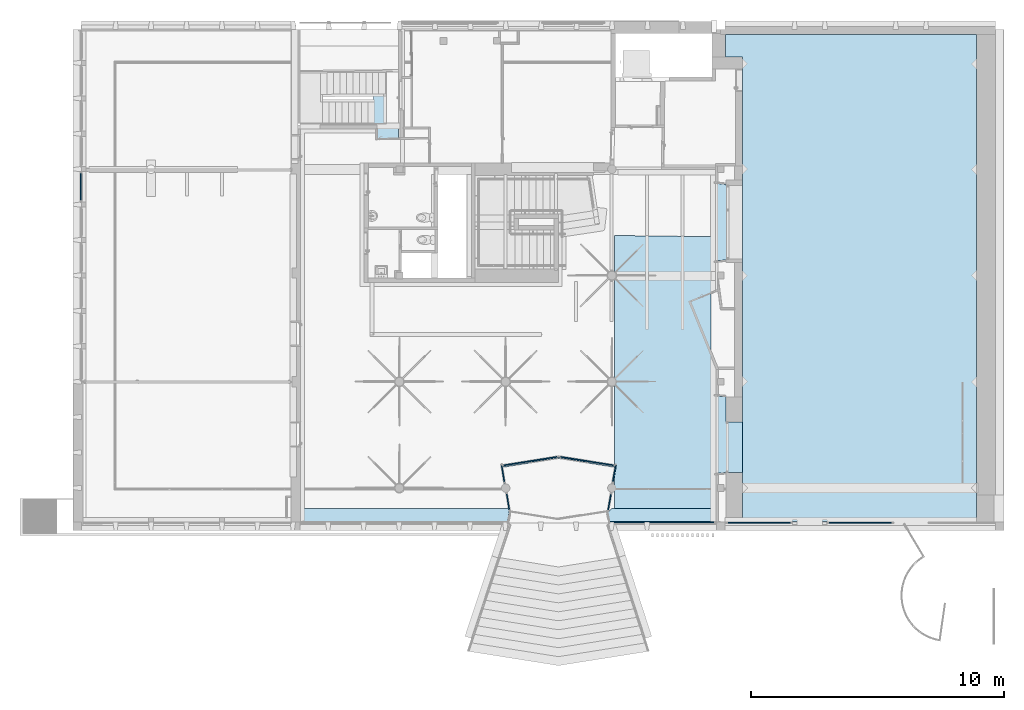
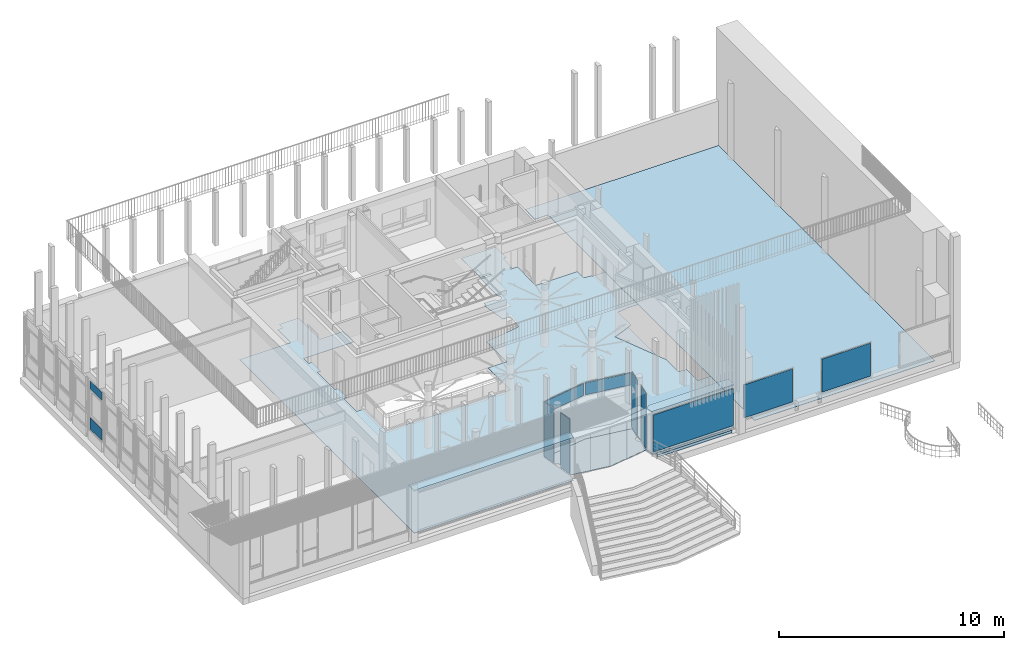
# One storey, part 16 of 65: 11 plates, 5 slabs, 10 elements without a shape of their own.
"""IFC4 building model written with IfcOpenShell, lengths in metres."""

from ifc_helpers import new_model, entity, si_unit, converted_unit, derived_unit, direction, frame, origin, place, context, subcontext, project, spatial, indexed_curve, outline, extrude, shape, source, transform, mapped, material, layer, layer_set, type_object, type_shapes, element, aggregate, save


model = new_model("IFC4")

# Units and contexts
model_context = context("Model", 3, precision=1e-05, world=origin(), true_north=direction((6.12303176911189e-17, 1.0)))
body_context = subcontext(model_context, "Body", "Model", "MODEL_VIEW")
footprint_context = subcontext(model_context, "FootPrint", "Model", "MODEL_VIEW")
ifc_project = project(units=[si_unit("LENGTHUNIT", "METRE"), si_unit("AREAUNIT", "SQUARE_METRE"), si_unit("VOLUMEUNIT", "CUBIC_METRE"), converted_unit("PLANEANGLEUNIT", "DEGREE", entity("IfcRatioMeasure", 0.0174532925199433), si_unit("PLANEANGLEUNIT", "RADIAN"), dimensions=[0, 0, 0, 0, 0, 0, 0]), si_unit("MASSUNIT", "GRAM", prefix="KILO"), derived_unit("MASSDENSITYUNIT", [(si_unit("MASSUNIT", "GRAM", prefix="KILO"), 1), (si_unit("LENGTHUNIT", "METRE"), -3)]), derived_unit("MOMENTOFINERTIAUNIT", [(si_unit("LENGTHUNIT", "METRE"), 4)]), si_unit("TIMEUNIT", "SECOND"), si_unit("FREQUENCYUNIT", "HERTZ"), si_unit("THERMODYNAMICTEMPERATUREUNIT", "DEGREE_CELSIUS"), derived_unit("THERMALTRANSMITTANCEUNIT", [(si_unit("MASSUNIT", "GRAM", prefix="KILO"), 1), (si_unit("THERMODYNAMICTEMPERATUREUNIT", "KELVIN"), -1), (si_unit("TIMEUNIT", "SECOND"), -3)]), derived_unit("VOLUMETRICFLOWRATEUNIT", [(si_unit("LENGTHUNIT", "METRE"), 3), (si_unit("TIMEUNIT", "SECOND"), -1)]), si_unit("ELECTRICCURRENTUNIT", "AMPERE"), si_unit("ELECTRICVOLTAGEUNIT", "VOLT"), si_unit("POWERUNIT", "WATT"), si_unit("FORCEUNIT", "NEWTON", prefix="KILO"), si_unit("ILLUMINANCEUNIT", "LUX"), si_unit("LUMINOUSFLUXUNIT", "LUMEN"), si_unit("LUMINOUSINTENSITYUNIT", "CANDELA"), derived_unit("USERDEFINED", [(si_unit("MASSUNIT", "GRAM", prefix="KILO"), -1), (si_unit("LENGTHUNIT", "METRE"), -2), (si_unit("TIMEUNIT", "SECOND"), 3), (si_unit("LUMINOUSFLUXUNIT", "LUMEN"), 1)]), derived_unit("LINEARVELOCITYUNIT", [(si_unit("LENGTHUNIT", "METRE"), 1), (si_unit("TIMEUNIT", "SECOND"), -1)]), si_unit("PRESSUREUNIT", "PASCAL"), derived_unit("USERDEFINED", [(si_unit("LENGTHUNIT", "METRE"), -2), (si_unit("MASSUNIT", "GRAM", prefix="KILO"), 1), (si_unit("TIMEUNIT", "SECOND"), -2)]), derived_unit("LINEARFORCEUNIT", [(si_unit("MASSUNIT", "GRAM", prefix="KILO"), 1), (si_unit("LENGTHUNIT", "METRE"), 1), (si_unit("TIMEUNIT", "SECOND"), -2), (si_unit("LENGTHUNIT", "METRE"), -1)]), derived_unit("PLANARFORCEUNIT", [(si_unit("MASSUNIT", "GRAM", prefix="KILO"), 1), (si_unit("LENGTHUNIT", "METRE"), 1), (si_unit("TIMEUNIT", "SECOND"), -2), (si_unit("LENGTHUNIT", "METRE"), -2)])], contexts=[model_context])

# Site, building, storey
site_placement = place(None, origin())
site = spatial("IfcSite", under=ifc_project, at=site_placement, Name="Default", CompositionType="ELEMENT")
building_placement = place(site_placement, origin())
building = spatial("IfcBuilding", under=site, at=building_placement, Name="HOTEL CONSULAIRE BOULOGNE SUR MER", CompositionType="ELEMENT")
storey_placement = place(building_placement, origin())
storey = spatial("IfcBuildingStorey", under=building, at=storey_placement, Name="Niveau 0", CompositionType="ELEMENT", Elevation=1.31981936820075e-13)

# Curtain wall, plate
curtain_wall_type = type_object("IfcCurtainWallType", Name="Mur-rideau:Simple panneau", PredefinedType="NOTDEFINED")
curtain_wall_1_placement = place(storey_placement, origin())
curtain_wall_1 = element("IfcCurtainWall", 1, at=curtain_wall_1_placement, inside=storey, type_object=curtain_wall_type, Name="Mur-rideau:Simple panneau", ObjectType="Mur-rideau:Simple panneau", PredefinedType="NOTDEFINED")
ifc_material_1 = material(Name="Verre", Category="Verre")
ifc_layer_1 = layer(ifc_material_1, 0.04, Name="Verre", Category="Verre")
ifc_layer_set_1 = layer_set([ifc_layer_1], Name="Mur-rideau:Simple panneau")
plate_type_1 = type_object("IfcPlateType", Name="Panneau système:Vitré", PredefinedType="CURTAIN_PANEL", material=ifc_layer_set_1)
shared_shape_1 = source(origin(), body_context, "Body", "SweptSolid", [
    extrude(outline(indexed_curve([(-0.02, -0.3156276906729), (0.02, -0.3156276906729), (0.02, 0.315627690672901), (-0.02, 0.315627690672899), (-0.02, -0.3156276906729)], self_intersect=False)), frame((0.315627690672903, 0.02, 0.0), z_axis=(0.0, 0.0, 1.0), x_axis=(0.0, 1.0, 0.0)), (0.0, 0.0, 1.0), 2.96461878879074),
])
shared_shape_2 = source(frame((-0.315627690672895, 0.00499999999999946, 0.0)), footprint_context, "FootPrint", "Curve2D", [
    entity("IfcIndexedPolyCurve", entity("IfcCartesianPointList2D", [[0.411831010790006, 0.00347599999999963], [0.411831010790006, 0.0434759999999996], [-0.219424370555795, 0.0434759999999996], [-0.219424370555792, 0.00347599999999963], [0.411831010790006, 0.00347599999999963]]), None, False),
])
type_shapes(plate_type_1, [shared_shape_1, shared_shape_2])
plate_1_placement = place(curtain_wall_1_placement, frame((3.1358729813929, -29.0647081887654, 0.0499999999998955), z_axis=(0.0, 0.0, 1.0), x_axis=(-0.164100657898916, 0.98644359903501, 0.0)))
plate_1 = element("IfcPlate", 2, at=plate_1_placement, type_object=plate_type_1, material=ifc_layer_set_1, Name="Panneau système:Vitré", ObjectType="Panneau système:Vitré", PredefinedType="CURTAIN_PANEL", shapes=[
    shape(body_context, "Body", "MappedRepresentation", [mapped(shared_shape_1, transform((0.0, 0.0, 0.0), scale=1.0))]),
    shape(body_context, "Body", "MappedRepresentation", [mapped(shared_shape_2, transform((0.0, 0.0, 0.0), scale=1.0))]),
])
aggregate(curtain_wall_1, [plate_1])

curtain_wall_2_placement = place(storey_placement, origin())
curtain_wall_2 = element("IfcCurtainWall", 3, at=curtain_wall_2_placement, inside=storey, type_object=curtain_wall_type, Name="Mur-rideau:Simple panneau", ObjectType="Mur-rideau:Simple panneau", PredefinedType="NOTDEFINED")
plate_type_2 = type_object("IfcPlateType", Name="Panneau système:Vitré", PredefinedType="CURTAIN_PANEL", material=ifc_layer_set_1)
shared_shape_3 = source(origin(), body_context, "Body", "SweptSolid", [
    extrude(outline(indexed_curve([(-0.02, -2.05573076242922), (0.02, -2.05573076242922), (0.02, 2.05573076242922), (-0.02, 2.05573076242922), (-0.02, -2.05573076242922)], self_intersect=False)), frame((2.05573076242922, 0.02, 0.0), z_axis=(0.0, 0.0, 1.0), x_axis=(0.0, 1.0, 0.0)), (0.0, 0.0, 1.0), 2.01),
])
shared_shape_4 = source(frame((-2.05573076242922, 0.00500000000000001, 0.0)), footprint_context, "FootPrint", "Curve2D", [
    entity("IfcIndexedPolyCurve", entity("IfcCartesianPointList2D", [[2.68231749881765, 0.003476], [2.68231749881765, 0.043476], [-1.42914402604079, 0.043476], [-1.42914402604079, 0.003476], [2.68231749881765, 0.003476]]), None, False),
])
type_shapes(plate_type_2, [shared_shape_3, shared_shape_4])
plate_2_placement = place(curtain_wall_2_placement, frame((7.09517677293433, -29.5930671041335, 0.139999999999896)))
plate_2 = element("IfcPlate", 4, at=plate_2_placement, type_object=plate_type_2, material=ifc_layer_set_1, Name="Panneau système:Vitré", ObjectType="Panneau système:Vitré", PredefinedType="CURTAIN_PANEL", shapes=[
    shape(body_context, "Body", "MappedRepresentation", [mapped(shared_shape_3, transform((0.0, 0.0, 0.0), scale=1.0))]),
    shape(body_context, "Body", "MappedRepresentation", [mapped(shared_shape_4, transform((0.0, 0.0, 0.0), scale=1.0))]),
])
aggregate(curtain_wall_2, [plate_2])

curtain_wall_3_placement = place(storey_placement, origin())
curtain_wall_3 = element("IfcCurtainWall", 5, at=curtain_wall_3_placement, inside=storey, type_object=curtain_wall_type, Name="Mur-rideau:Simple panneau", ObjectType="Mur-rideau:Simple panneau", PredefinedType="NOTDEFINED")
plate_type_3 = type_object("IfcPlateType", Name="Panneau système:Vitré", PredefinedType="CURTAIN_PANEL", material=ifc_layer_set_1)
shared_shape_5 = source(origin(), body_context, "Body", "SweptSolid", [
    extrude(outline(indexed_curve([(-0.0199999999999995, -0.326000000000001), (0.0200000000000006, -0.326000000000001), (0.0199999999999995, 0.326000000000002), (-0.0200000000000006, 0.326), (-0.0199999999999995, -0.326000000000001)], self_intersect=False)), frame((0.326000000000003, 0.02, 0.0), z_axis=(0.0, 0.0, 1.0), x_axis=(0.0, 1.0, 0.0)), (0.0, 0.0, 1.0), 2.96461878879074),
])
shared_shape_6 = source(frame((-0.326000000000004, -0.045, 0.0)), footprint_context, "FootPrint", "Curve2D", [
    entity("IfcIndexedPolyCurve", entity("IfcCartesianPointList2D", [[0.425364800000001, -0.031284], [0.425364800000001, 0.008716], [-0.226635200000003, 0.00871600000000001], [-0.226635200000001, -0.031284], [0.425364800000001, -0.031284]]), None, False),
])
type_shapes(plate_type_3, [shared_shape_5, shared_shape_6])
plate_3_placement = place(curtain_wall_3_placement, frame((7.04048388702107, -29.0984529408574, 0.0499999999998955), z_axis=(0.0, 0.0, 1.0), x_axis=(0.173648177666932, 0.984807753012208, 0.0)))
plate_3 = element("IfcPlate", 6, at=plate_3_placement, type_object=plate_type_3, material=ifc_layer_set_1, Name="Panneau système:Vitré", ObjectType="Panneau système:Vitré", PredefinedType="CURTAIN_PANEL", shapes=[
    shape(body_context, "Body", "MappedRepresentation", [mapped(shared_shape_5, transform((0.0, 0.0, 0.0), scale=1.0))]),
    shape(body_context, "Body", "MappedRepresentation", [mapped(shared_shape_6, transform((0.0, 0.0, 0.0), scale=1.0))]),
])
aggregate(curtain_wall_3, [plate_3])

curtain_wall_4_placement = place(storey_placement, origin())
curtain_wall_4 = element("IfcCurtainWall", 7, at=curtain_wall_4_placement, inside=storey, type_object=curtain_wall_type, Name="Mur-rideau:Simple panneau", ObjectType="Mur-rideau:Simple panneau", PredefinedType="NOTDEFINED")
plate_type_4 = type_object("IfcPlateType", Name="Panneau système:Vitré", PredefinedType="CURTAIN_PANEL", material=ifc_layer_set_1)
shared_shape_7 = source(origin(), body_context, "Body", "SweptSolid", [
    extrude(outline(indexed_curve([(-0.02, -0.336937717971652), (0.02, -0.336937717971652), (0.02, 0.336937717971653), (-0.02, 0.33693771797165), (-0.02, -0.336937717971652)], self_intersect=False)), frame((0.336937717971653, 0.02, 0.0), z_axis=(0.0, 0.0, 1.0), x_axis=(0.0, 1.0, 0.0)), (0.0, 0.0, 1.0), 2.96461878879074),
])
shared_shape_8 = source(frame((-0.33693771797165, 0.00500000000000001, 0.0)), footprint_context, "FootPrint", "Curve2D", [
    entity("IfcIndexedPolyCurve", entity("IfcCartesianPointList2D", [[0.439636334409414, 0.003476], [0.439636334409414, 0.043476], [-0.234239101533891, 0.043476], [-0.234239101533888, 0.003476], [0.439636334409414, 0.003476]]), None, False),
])
type_shapes(plate_type_4, [shared_shape_7, shared_shape_8])
plate_4_placement = place(curtain_wall_4_placement, frame((2.94031764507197, -27.9717966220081, 0.0499999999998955), z_axis=(0.0, 0.0, 1.0), x_axis=(-0.161062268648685, 0.986944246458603, 0.0)))
plate_4 = element("IfcPlate", 8, at=plate_4_placement, type_object=plate_type_4, material=ifc_layer_set_1, Name="Panneau système:Vitré", ObjectType="Panneau système:Vitré", PredefinedType="CURTAIN_PANEL", shapes=[
    shape(body_context, "Body", "MappedRepresentation", [mapped(shared_shape_7, transform((0.0, 0.0, 0.0), scale=1.0))]),
    shape(body_context, "Body", "MappedRepresentation", [mapped(shared_shape_8, transform((0.0, 0.0, 0.0), scale=1.0))]),
])
aggregate(curtain_wall_4, [plate_4])

curtain_wall_5_placement = place(storey_placement, origin())
curtain_wall_5 = element("IfcCurtainWall", 9, at=curtain_wall_5_placement, inside=storey, type_object=curtain_wall_type, Name="Mur-rideau:Simple panneau", ObjectType="Mur-rideau:Simple panneau", PredefinedType="NOTDEFINED")
plate_type_5 = type_object("IfcPlateType", Name="Panneau système:Vitré", PredefinedType="CURTAIN_PANEL", material=ifc_layer_set_1)
shared_shape_9 = source(origin(), body_context, "Body", "SweptSolid", [
    extrude(outline(indexed_curve([(-0.0199999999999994, -0.338067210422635), (0.0200000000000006, -0.338067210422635), (0.0199999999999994, 0.338067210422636), (-0.0200000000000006, 0.338067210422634), (-0.0199999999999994, -0.338067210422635)], self_intersect=False)), frame((0.338067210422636, 0.02, 0.0), z_axis=(0.0, 0.0, 1.0), x_axis=(0.0, 1.0, 0.0)), (0.0, 0.0, 1.0), 2.96461878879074),
])
shared_shape_10 = source(frame((-0.338067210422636, -0.0449999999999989, 0.0)), footprint_context, "FootPrint", "Curve2D", [
    entity("IfcIndexedPolyCurve", entity("IfcCartesianPointList2D", [[0.441110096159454, -0.0312839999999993], [0.441110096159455, 0.00871600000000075], [-0.235024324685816, 0.00871600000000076], [-0.235024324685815, -0.0312839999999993], [0.441110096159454, -0.0312839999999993]]), None, False),
])
type_shapes(plate_type_5, [shared_shape_9, shared_shape_10])
plate_5_placement = place(curtain_wall_5_placement, frame((7.22417553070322, -27.9794835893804, 0.0499999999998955), z_axis=(0.0, 0.0, 1.0), x_axis=(0.173648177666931, 0.984807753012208, 0.0)))
plate_5 = element("IfcPlate", 10, at=plate_5_placement, type_object=plate_type_5, material=ifc_layer_set_1, Name="Panneau système:Vitré", ObjectType="Panneau système:Vitré", PredefinedType="CURTAIN_PANEL", shapes=[
    shape(body_context, "Body", "MappedRepresentation", [mapped(shared_shape_9, transform((0.0, 0.0, 0.0), scale=1.0))]),
    shape(body_context, "Body", "MappedRepresentation", [mapped(shared_shape_10, transform((0.0, 0.0, 0.0), scale=1.0))]),
])
aggregate(curtain_wall_5, [plate_5])

# Slab
ifc_material_2 = material(Name="PVC - Blanc", Category="Plastique")
ifc_layer_2 = layer(ifc_material_2, 0.066, Name="PVC - Blanc", Category="Plastique")
ifc_layer_set_2 = layer_set([ifc_layer_2], Name="Sol:Dalle en béton - 66mm")
slab_type_1 = type_object("IfcSlabType", Name="Sol:Dalle en béton - 66mm", PredefinedType="FLOOR", material=ifc_layer_set_2)
slab_1_placement = place(storey_placement, origin())
element("IfcSlab", 11, at=slab_1_placement, inside=storey, type_object=slab_type_1, material=ifc_layer_set_2, Name="Sol:Dalle en béton - 66mm", ObjectType="Sol:Dalle en béton - 66mm", PredefinedType="FLOOR", context=body_context, shape_type="SweptSolid", body=[
    extrude(outline(indexed_curve([(-1.70286962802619, -0.271666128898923), (2.52718431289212, -0.271666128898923), (2.52718431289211, 0.240230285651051), (-1.57752116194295, 0.240230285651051), (-1.77397783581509, 0.0628716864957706), (-1.70286962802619, -0.271666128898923)], self_intersect=False)), frame((8.74981667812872, -29.2664009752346, 2.25000000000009)), (0.0, 0.0, 1.0), 0.0659999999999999),
    extrude(outline(indexed_curve([(-0.233269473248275, -4.92396028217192), (0.276730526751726, -4.92396028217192), (0.276730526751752, 3.24363082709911), (-0.086922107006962, 3.31431773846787), (-0.233269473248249, 3.28997199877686), (-0.233269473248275, -4.92396028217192)], self_intersect=False)), frame((-0.205812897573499, -29.2613365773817, 2.25000000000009), z_axis=(0.0, 0.0, 1.0), x_axis=(0.0, -1.0, 0.0)), (0.0, 0.0, 1.0), 0.0659999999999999),
])

# Curtain wall, plate
curtain_wall_6_placement = place(storey_placement, origin())
curtain_wall_6 = element("IfcCurtainWall", 12, at=curtain_wall_6_placement, inside=storey, type_object=curtain_wall_type, Name="Mur-rideau:Simple panneau", ObjectType="Mur-rideau:Simple panneau", PredefinedType="NOTDEFINED")
plate_type_6 = type_object("IfcPlateType", Name="Panneau système:Vitré", PredefinedType="CURTAIN_PANEL", material=ifc_layer_set_1)
shared_shape_11 = source(origin(), body_context, "Body", "SweptSolid", [
    extrude(outline(indexed_curve([(-0.0199999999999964, -1.07837278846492), (0.0200000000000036, -1.07837278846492), (0.0199999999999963, 1.07837278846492), (-0.0200000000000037, 1.07837278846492), (-0.0199999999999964, -1.07837278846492)], self_intersect=False)), frame((1.07837278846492, 0.02, 0.0), z_axis=(0.0, 0.0, 1.0), x_axis=(0.0, 1.0, 0.0)), (0.0, 0.0, 1.0), 0.64861878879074),
])
shared_shape_12 = source(frame((-1.07837278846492, 0.00500000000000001, 0.0)), footprint_context, "FootPrint", "Curve2D", [
    entity("IfcIndexedPolyCurve", entity("IfcCartesianPointList2D", [[1.40706081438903, 0.003476], [1.40706081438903, 0.043476], [-0.749684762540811, 0.043476], [-0.749684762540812, 0.003476], [1.40706081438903, 0.003476]]), None, False),
])
type_shapes(plate_type_6, [shared_shape_11, shared_shape_12])
plate_6_placement = place(curtain_wall_6_placement, frame((2.88989633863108, -27.3373936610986, 2.3659999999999), z_axis=(0.0, 0.0, 1.0), x_axis=(0.987688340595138, 0.156434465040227, 0.0)))
plate_6 = element("IfcPlate", 13, at=plate_6_placement, type_object=plate_type_6, material=ifc_layer_set_1, Name="Panneau système:Vitré", ObjectType="Panneau système:Vitré", PredefinedType="CURTAIN_PANEL", shapes=[
    shape(body_context, "Body", "MappedRepresentation", [mapped(shared_shape_11, transform((0.0, 0.0, 0.0), scale=1.0))]),
    shape(body_context, "Body", "MappedRepresentation", [mapped(shared_shape_12, transform((0.0, 0.0, 0.0), scale=1.0))]),
])
aggregate(curtain_wall_6, [plate_6])

curtain_wall_7_placement = place(storey_placement, origin())
curtain_wall_7 = element("IfcCurtainWall", 14, at=curtain_wall_7_placement, inside=storey, type_object=curtain_wall_type, Name="Mur-rideau:Simple panneau", ObjectType="Mur-rideau:Simple panneau", PredefinedType="NOTDEFINED")
plate_type_7 = type_object("IfcPlateType", Name="Panneau système:Vitré", PredefinedType="CURTAIN_PANEL", material=ifc_layer_set_1)
shared_shape_13 = source(origin(), body_context, "Body", "SweptSolid", [
    extrude(outline(indexed_curve([(-0.0200000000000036, -1.07356248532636), (0.0199999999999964, -1.07356248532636), (0.0200000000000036, 1.07356248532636), (-0.0199999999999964, 1.07356248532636), (-0.0200000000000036, -1.07356248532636)], self_intersect=False)), frame((1.07356248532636, 0.02, 0.0), z_axis=(0.0, 0.0, 1.0), x_axis=(0.0, 1.0, 0.0)), (0.0, 0.0, 1.0), 0.64861878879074),
])
shared_shape_14 = source(frame((-1.07356248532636, -0.045, 0.0)), footprint_context, "FootPrint", "Curve2D", [
    entity("IfcIndexedPolyCurve", entity("IfcCartesianPointList2D", [[1.40078433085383, -0.031284], [1.40078433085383, 0.008716], [-0.746340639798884, 0.00871600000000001], [-0.746340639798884, -0.031284], [1.40078433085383, -0.031284]]), None, False),
])
type_shapes(plate_type_7, [shared_shape_13, shared_shape_14])
plate_7_placement = place(curtain_wall_7_placement, frame((7.2473696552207, -27.2963811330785, 2.3659999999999), z_axis=(0.0, 0.0, 1.0), x_axis=(-0.987688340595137, 0.156434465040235, 0.0)))
plate_7 = element("IfcPlate", 15, at=plate_7_placement, type_object=plate_type_7, material=ifc_layer_set_1, Name="Panneau système:Vitré", ObjectType="Panneau système:Vitré", PredefinedType="CURTAIN_PANEL", shapes=[
    shape(body_context, "Body", "MappedRepresentation", [mapped(shared_shape_13, transform((0.0, 0.0, 0.0), scale=1.0))]),
    shape(body_context, "Body", "MappedRepresentation", [mapped(shared_shape_14, transform((0.0, 0.0, 0.0), scale=1.0))]),
])
aggregate(curtain_wall_7, [plate_7])

# Slabs
ifc_material_3 = material(Name="Carrelage beige")
ifc_layer_3 = layer(ifc_material_3, 0.02, Name="Carrelage beige")
ifc_layer_set_3 = layer_set([ifc_layer_3], Name="Sol:finition carrelage 20 mm")
slab_type_2 = type_object("IfcSlabType", Name="Sol:finition carrelage 20 mm", PredefinedType="FLOOR", material=ifc_layer_set_3)
slab_2_placement = place(storey_placement, origin())
element("IfcSlab", 16, at=slab_2_placement, inside=storey, type_object=slab_type_2, material=ifc_layer_set_3, Name="Sol:finition carrelage 20 mm", ObjectType="Sol:finition carrelage 20 mm", PredefinedType="FLOOR", context=body_context, shape_type="SweptSolid", body=[
    extrude(outline(indexed_curve([(-10.7576299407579, -10.5209012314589), (4.76258985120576, -10.5209012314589), (4.76258985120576, -7.89541787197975), (5.93131613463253, -7.89541787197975), (5.93131613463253, -7.63541787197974), (6.23880481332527, -7.63541787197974), (6.23880481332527, -6.65055155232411), (4.34526353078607, -6.65055155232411), (4.35719511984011, -5.46175222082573), (3.40519511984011, -5.46175222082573), (3.40519511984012, -8.02058463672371), (2.97519511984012, -8.02058463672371), (2.97519511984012, -7.84058463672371), (2.17519511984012, -7.84058463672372), (2.17519511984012, -8.02058463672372), (0.642376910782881, -8.02058463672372), (0.642376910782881, -7.86047963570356), (-0.15762308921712, -7.86047963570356), (-0.15762308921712, -8.02058463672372), (-1.31447719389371, -8.02058463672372), (-1.31447719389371, -7.62462484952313), (-3.28778188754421, -7.62462484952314), (-3.28778188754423, -1.28395127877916), (-1.31447719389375, -1.28395127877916), (-1.31447719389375, -0.338241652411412), (0.485790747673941, -0.33824165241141), (0.747425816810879, 1.40573485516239), (0.749789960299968, 1.41659532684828), (0.753550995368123, 1.42705446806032), (0.758644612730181, 1.43693343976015), (0.764983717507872, 1.44606332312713), (0.772459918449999, 1.45428800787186), (0.780945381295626, 1.46146686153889), (0.790295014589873, 1.46747713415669), (0.800348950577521, 1.47221605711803), (0.810935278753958, 1.47560260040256), (0.821872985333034, 1.47757885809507), (1.54910077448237, 1.56034768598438), (1.55647146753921, 1.5606041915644), (1.56379154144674, 1.55970450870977), (1.57088075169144, 1.55767079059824), (1.57756453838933, 1.55455311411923), (1.5836783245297, 1.55042824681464), (1.58907156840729, 1.54539775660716), (1.59361147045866, 1.53958551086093), (1.59718624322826, 1.53313462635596), (1.59970786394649, 1.52620394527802), (1.60111424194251, 1.51896412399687), (1.64111374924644, 1.16751836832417), (2.9251951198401, 0.973560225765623), (2.9251951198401, 1.06011039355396), (3.1051951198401, 1.06011039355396), (3.1051951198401, 1.62073869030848), (3.04925874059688, 1.65509614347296), (3.01051020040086, 1.70808542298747), (2.99472733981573, 1.77180523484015), (3.00426355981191, 1.83675424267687), (3.03769690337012, 1.89324782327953), (3.09004208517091, 1.93286215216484), (3.1534938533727, 1.94969028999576), (3.21859083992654, 1.941222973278), (3.27562635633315, 1.90872277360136), (3.31609576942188, 1.85703583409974), (4.80808189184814, 1.88768786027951), (4.80808189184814, 2.40885221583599), (4.90808189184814, 2.40885221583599), (4.90808189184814, 1.917852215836), (6.62964585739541, 1.91785221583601), (6.6296458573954, 3.69507890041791), (5.68408189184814, 3.68597952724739), (5.68408189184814, 3.53512130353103), (4.90808189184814, 3.53512130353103), (4.90808189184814, 3.40885221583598), (4.80808189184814, 3.40885221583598), (4.80808189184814, 3.75754641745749), (3.16452735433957, 3.73261933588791), (3.16452735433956, 5.87948794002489), (2.60808159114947, 5.87948794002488), (2.56542378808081, 6.28534982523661), (2.52594755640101, 6.28534982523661), (2.52594755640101, 6.93534982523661), (-0.386913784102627, 6.9353498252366), (-0.386913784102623, 6.2853498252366), (-0.416921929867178, 6.2853498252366), (-0.462860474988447, 5.87093722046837), (-1.6168014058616, 5.87093722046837), (-2.05430030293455, 4.80011645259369), (-4.73743177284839, 5.8963475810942), (-5.79371153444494, 5.8963475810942), (-5.82774482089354, 6.2853498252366), (-6.82254516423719, 6.2853498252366), (-6.82254516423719, 6.9353498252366), (-8.81961914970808, 6.93534982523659), (-8.81961914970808, 6.28534982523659), (-8.86160586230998, 5.88587293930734), (-10.7576299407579, 5.88587293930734), (-10.7576299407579, 1.70693602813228), (-10.3882860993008, 1.62842957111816), (-8.60065852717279, 1.94363654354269), (-8.2419955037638, -0.320872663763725), (-8.59997495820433, -2.58106598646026), (-10.3939773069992, -2.28262321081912), (-10.7576299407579, -2.35331012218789), (-10.7576299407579, -10.5209012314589)], self_intersect=False)), frame((5.3911280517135, -18.7804371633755, 0.0), z_axis=(0.0, 0.0, -1.0), x_axis=(0.0, 1.0, 0.0)), (0.0, 0.0, 1.0), 0.02),
])
ifc_material_4 = material(Name="PARQUET")
ifc_layer_4 = layer(ifc_material_4, 0.02, Name="PARQUET")
ifc_layer_set_4 = layer_set([ifc_layer_4], Name="Sol:finition PARQUET 20 mm")
slab_type_3 = type_object("IfcSlabType", Name="Sol:finition PARQUET 20 mm", PredefinedType="FLOOR", material=ifc_layer_set_4)
slab_3_placement = place(storey_placement, origin())
element("IfcSlab", 17, at=slab_3_placement, inside=storey, type_object=slab_type_3, material=ifc_layer_set_4, Name="Sol:finition PARQUET 20 mm", ObjectType="Sol:finition PARQUET 20 mm", PredefinedType="FLOOR", context=body_context, shape_type="SweptSolid", body=[
    extrude(outline(indexed_curve([(5.83123212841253, -3.52733961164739), (6.70640880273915, -3.52733961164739), (6.70640880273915, 6.38939885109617), (-12.5376409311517, 6.38939885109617), (-12.5376409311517, -2.86205923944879), (5.83123212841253, -2.86205923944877), (5.83123212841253, -3.52733961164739)], self_intersect=False)), frame((15.1885371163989, -17.0004261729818, 0.0), z_axis=(0.0, 0.0, -1.0), x_axis=(0.0, 1.0, 0.0)), (0.0, 0.0, 1.0), 0.02),
])

# Curtain wall, plate
curtain_wall_8_placement = place(storey_placement, origin())
curtain_wall_8 = element("IfcCurtainWall", 18, at=curtain_wall_8_placement, inside=storey, type_object=curtain_wall_type, Name="Mur-rideau:Simple panneau", ObjectType="Mur-rideau:Simple panneau", PredefinedType="NOTDEFINED")
plate_type_8 = type_object("IfcPlateType", Name="Panneau système:Vitré", PredefinedType="CURTAIN_PANEL", material=ifc_layer_set_1)
shared_shape_15 = source(origin(), body_context, "Body", "SweptSolid", [
    extrude(outline(indexed_curve([(-0.02, -1.245), (0.02, -1.245), (0.02, 1.245), (-0.02, 1.245), (-0.02, -1.245)], self_intersect=False)), frame((1.245, 0.02, 0.0), z_axis=(0.0, 0.0, 1.0), x_axis=(0.0, 1.0, 0.0)), (0.0, 0.0, 1.0), 1.78944921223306),
])
shared_shape_16 = source(frame((-1.245, 0.00499999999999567, 0.0)), footprint_context, "FootPrint", "Curve2D", [
    entity("IfcIndexedPolyCurve", entity("IfcCartesianPointList2D", [[1.624476, 0.00347599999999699], [1.624476, 0.043475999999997], [-0.865523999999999, 0.043475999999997], [-0.865523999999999, 0.00347599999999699], [1.624476, 0.00347599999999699]]), None, False),
])
type_shapes(plate_type_8, [shared_shape_15, shared_shape_16])
plate_8_placement = place(curtain_wall_8_placement, frame((11.7464778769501, -29.6090671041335, 0.374591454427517)))
plate_8 = element("IfcPlate", 19, at=plate_8_placement, type_object=plate_type_8, material=ifc_layer_set_1, Name="Panneau système:Vitré", ObjectType="Panneau système:Vitré", PredefinedType="CURTAIN_PANEL", shapes=[
    shape(body_context, "Body", "MappedRepresentation", [mapped(shared_shape_15, transform((0.0, 0.0, 0.0), scale=1.0))]),
    shape(body_context, "Body", "MappedRepresentation", [mapped(shared_shape_16, transform((0.0, 0.0, 0.0), scale=1.0))]),
])
aggregate(curtain_wall_8, [plate_8])

curtain_wall_9_placement = place(storey_placement, origin())
curtain_wall_9 = element("IfcCurtainWall", 20, at=curtain_wall_9_placement, inside=storey, type_object=curtain_wall_type, Name="Mur-rideau:Simple panneau", ObjectType="Mur-rideau:Simple panneau", PredefinedType="NOTDEFINED")
plate_type_9 = type_object("IfcPlateType", Name="Panneau système:Vitré", PredefinedType="CURTAIN_PANEL", material=ifc_layer_set_1)
shared_shape_17 = source(origin(), body_context, "Body", "SweptSolid", [
    extrude(outline(indexed_curve([(-0.02, -1.24752715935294), (0.02, -1.24752715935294), (0.02, 1.24752715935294), (-0.02, 1.24752715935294), (-0.02, -1.24752715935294)], self_intersect=False)), frame((1.24752715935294, 0.02, 0.0), z_axis=(0.0, 0.0, 1.0), x_axis=(0.0, 1.0, 0.0)), (0.0, 0.0, 1.0), 1.78944921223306),
])
shared_shape_18 = source(frame((-1.24752715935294, 0.00500000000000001, 0.0)), footprint_context, "FootPrint", "Curve2D", [
    entity("IfcIndexedPolyCurve", entity("IfcCartesianPointList2D", [[1.62777343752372, 0.003476], [1.62777343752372, 0.043476], [-0.867280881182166, 0.043476], [-0.867280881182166, 0.003476], [1.62777343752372, 0.003476]]), None, False),
])
type_shapes(plate_type_9, [shared_shape_17, shared_shape_18])
plate_9_placement = place(curtain_wall_9_placement, frame((15.7384235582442, -29.6090671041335, 0.374591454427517)))
plate_9 = element("IfcPlate", 21, at=plate_9_placement, type_object=plate_type_9, material=ifc_layer_set_1, Name="Panneau système:Vitré", ObjectType="Panneau système:Vitré", PredefinedType="CURTAIN_PANEL", shapes=[
    shape(body_context, "Body", "MappedRepresentation", [mapped(shared_shape_17, transform((0.0, 0.0, 0.0), scale=1.0))]),
    shape(body_context, "Body", "MappedRepresentation", [mapped(shared_shape_18, transform((0.0, 0.0, 0.0), scale=1.0))]),
])
aggregate(curtain_wall_9, [plate_9])

# Slab
ifc_material_5 = material(Name="Moquette Antidérapante")
ifc_layer_5 = layer(ifc_material_5, 0.02, Name="Moquette Antidérapante")
ifc_layer_set_5 = layer_set([ifc_layer_5], Name="Sol:Moquette Antidérapante 20 mm")
slab_type_4 = type_object("IfcSlabType", Name="Sol:Moquette Antidérapante 20 mm", PredefinedType="FLOOR", material=ifc_layer_set_5)
slab_4_placement = place(storey_placement, origin())
element("IfcSlab", 22, at=slab_4_placement, inside=storey, type_object=slab_type_4, material=ifc_layer_set_5, Name="Sol:Moquette Antidérapante 20 mm", ObjectType="Sol:Moquette Antidérapante 20 mm", PredefinedType="FLOOR", context=body_context, shape_type="SweptSolid", body=[
    extrude(outline(indexed_curve([(-0.183980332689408, -1.18804017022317), (2.05874865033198, -1.18804017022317), (2.04682740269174, -0.505072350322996), (2.0015264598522, -0.489853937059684), (1.96225102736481, -0.462628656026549), (1.93210478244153, -0.425547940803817), (1.91346998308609, -0.381542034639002), (1.90781921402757, -0.334088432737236), (1.91559901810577, -0.286937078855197), (1.9361946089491, -0.243814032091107), (1.96797845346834, -0.208127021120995), (2.00843888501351, -0.182696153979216), (2.05437858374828, -0.169531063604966), (2.04153333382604, 0.566372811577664), (0.162311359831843, 1.17696904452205), (-1.75469427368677, 1.17696904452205), (-1.99074399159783, 0.469233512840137), (-1.95126367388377, 0.440269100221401), (-1.92167679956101, 0.401253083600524), (-1.90443798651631, 0.355422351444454), (-1.90097741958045, 0.306579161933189), (-1.91158219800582, 0.258775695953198), (-1.93537251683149, 0.215977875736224), (-1.97037465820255, 0.181736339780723), (-2.01368473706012, 0.158891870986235), (-2.06170961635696, 0.149339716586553), (-2.11046500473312, 0.153872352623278), (-2.32391572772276, -0.492733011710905), (-0.183980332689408, -1.18804017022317)], self_intersect=False)), frame((5.06612018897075, -28.2246269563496, 0.0), z_axis=(0.0, 0.0, -1.0), x_axis=(0.987688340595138, -0.156434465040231, 0.0)), (0.0, 0.0, 1.0), 0.02),
])

# Curtain wall, plates
curtain_wall_10_placement = place(storey_placement, origin())
curtain_wall_10 = element("IfcCurtainWall", 23, at=curtain_wall_10_placement, inside=storey, type_object=curtain_wall_type, Name="Mur-rideau:Simple panneau", ObjectType="Mur-rideau:Simple panneau", PredefinedType="NOTDEFINED")
plate_type_10 = type_object("IfcPlateType", Name="Panneau système:Vitré", PredefinedType="CURTAIN_PANEL", material=ifc_layer_set_1)
shared_shape_19 = source(origin(), body_context, "Body", "SweptSolid", [
    extrude(outline(indexed_curve([(-0.02, -0.530000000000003), (0.02, -0.530000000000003), (0.02, 0.530000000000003), (-0.02, 0.530000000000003), (-0.02, -0.530000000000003)], self_intersect=False)), frame((0.530000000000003, 0.02, 0.0), z_axis=(0.0, 0.0, 1.0), x_axis=(0.0, 1.0, 0.0)), (0.0, 0.0, 1.0), 0.612),
])
shared_shape_20 = source(frame((-0.530000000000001, 0.00500000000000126, 0.0)), footprint_context, "FootPrint", "Curve2D", [
    entity("IfcIndexedPolyCurve", entity("IfcCartesianPointList2D", [[0.691544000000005, 0.00347600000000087], [0.691544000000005, 0.0434760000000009], [-0.368456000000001, 0.0434760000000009], [-0.368456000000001, 0.00347600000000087], [0.691544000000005, 0.00347600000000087]]), None, False),
])
type_shapes(plate_type_10, [shared_shape_19, shared_shape_20])
plate_10_placement = place(curtain_wall_10_placement, frame((-13.7950998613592, -16.8414499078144, 0.359999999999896), z_axis=(0.0, 0.0, 1.0), x_axis=(0.0, 1.0, 0.0)))
plate_10 = element("IfcPlate", 24, at=plate_10_placement, type_object=plate_type_10, material=ifc_layer_set_1, Name="Panneau système:Vitré", ObjectType="Panneau système:Vitré", PredefinedType="CURTAIN_PANEL", shapes=[
    shape(body_context, "Body", "MappedRepresentation", [mapped(shared_shape_19, transform((0.0, 0.0, 0.0), scale=1.0))]),
    shape(body_context, "Body", "MappedRepresentation", [mapped(shared_shape_20, transform((0.0, 0.0, 0.0), scale=1.0))]),
])
plate_type_11 = type_object("IfcPlateType", Name="Panneau système:Vitré", PredefinedType="CURTAIN_PANEL", material=ifc_layer_set_1)
shared_shape_21 = source(origin(), body_context, "Body", "SweptSolid", [
    extrude(outline(indexed_curve([(-0.02, -0.530000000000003), (0.02, -0.530000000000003), (0.02, 0.530000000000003), (-0.02, 0.530000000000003), (-0.02, -0.530000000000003)], self_intersect=False)), frame((0.530000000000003, 0.02, 0.0), z_axis=(0.0, 0.0, 1.0), x_axis=(0.0, 1.0, 0.0)), (0.0, 0.0, 1.0), 0.423999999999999),
])
shared_shape_22 = source(frame((-0.530000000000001, 0.00500000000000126, 0.0)), footprint_context, "FootPrint", "Curve2D", [
    entity("IfcIndexedPolyCurve", entity("IfcCartesianPointList2D", [[0.691544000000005, 0.00347600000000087], [0.691544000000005, 0.0434760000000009], [-0.368456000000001, 0.0434760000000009], [-0.368456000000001, 0.00347600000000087], [0.691544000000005, 0.00347600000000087]]), None, False),
])
type_shapes(plate_type_11, [shared_shape_21, shared_shape_22])
plate_11_placement = place(curtain_wall_10_placement, frame((-13.7950998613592, -16.8414499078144, 2.5459999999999), z_axis=(0.0, 0.0, 1.0), x_axis=(0.0, 1.0, 0.0)))
plate_11 = element("IfcPlate", 25, at=plate_11_placement, type_object=plate_type_11, material=ifc_layer_set_1, Name="Panneau système:Vitré", ObjectType="Panneau système:Vitré", PredefinedType="CURTAIN_PANEL", shapes=[
    shape(body_context, "Body", "MappedRepresentation", [mapped(shared_shape_21, transform((0.0, 0.0, 0.0), scale=1.0))]),
    shape(body_context, "Body", "MappedRepresentation", [mapped(shared_shape_22, transform((0.0, 0.0, 0.0), scale=1.0))]),
])
aggregate(curtain_wall_10, [plate_10, plate_11])

# Slab
ifc_material_6 = material(Name="Béton - Béton coulé sur place", Category="Béton")
ifc_layer_6 = layer(ifc_material_6, 0.15, Name="Béton - Béton coulé sur place", Category="Béton")
ifc_layer_set_6 = layer_set([ifc_layer_6], Name="Sol:Dalle en béton 150")
slab_type_5 = type_object("IfcSlabType", Name="Sol:Dalle en béton 150", PredefinedType="FLOOR", material=ifc_layer_set_6)
slab_5_placement = place(storey_placement, origin())
element("IfcSlab", 26, at=slab_5_placement, inside=storey, type_object=slab_type_5, material=ifc_layer_set_6, Name="Sol:Dalle en béton 150", ObjectType="Sol:Dalle en béton 150", PredefinedType="FLOOR", context=body_context, shape_type="SweptSolid", body=[
    extrude(outline(indexed_curve([(-5.70105161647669, -1.90504480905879), (5.72345633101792, -1.90504480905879), (5.67864690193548, 1.90504480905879), (-5.7010516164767, 1.90504480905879), (-5.70105161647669, -1.90504480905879)], self_intersect=False)), frame((9.1771820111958, -23.9570154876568, -0.0199999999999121), z_axis=(0.0, 0.0, -1.0), x_axis=(0.0, 1.0, 0.0)), (0.0, 0.0, 1.0), 0.15),
])

save(model, "model.ifc")
